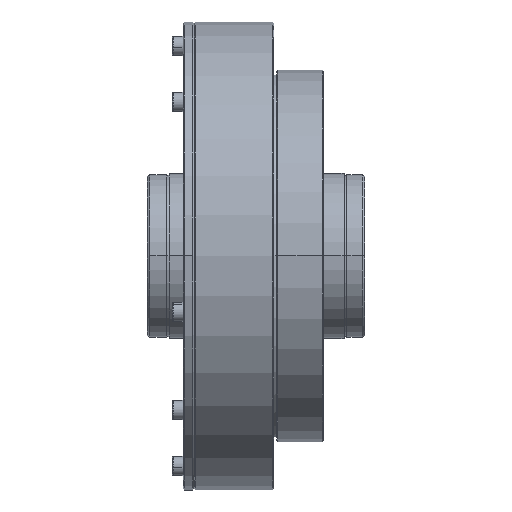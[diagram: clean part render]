
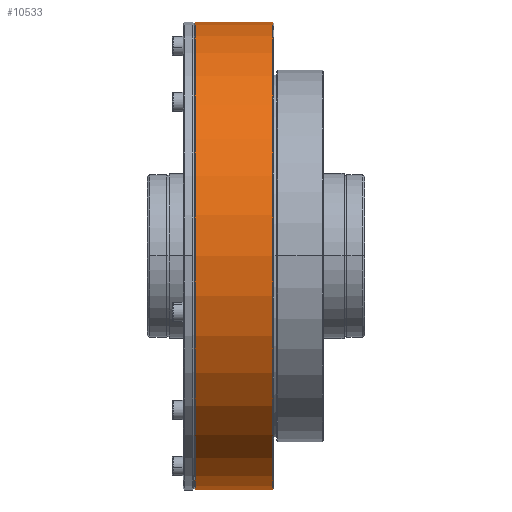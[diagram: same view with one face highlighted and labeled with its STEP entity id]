
A CAD part, top view. The second image highlights one B-rep face of the part: STEP entity #10533.
In plain terms, the highlighted cylindrical face has radius 85 mm (diameter 170 mm), a partial arc.
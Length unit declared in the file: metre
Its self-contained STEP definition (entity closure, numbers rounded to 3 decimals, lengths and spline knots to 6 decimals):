
#390 = CARTESIAN_POINT ( 'NONE',  ( 0.0175, 0.085, 0. ) ) ;
#1023 = CARTESIAN_POINT ( 'NONE',  ( 0.0175, 0., 0. ) ) ;
#1043 = DIRECTION ( 'NONE',  ( -1., 0., 0. ) ) ;
#3065 = VECTOR ( 'NONE', #25677, 1. ) ;
#3181 = EDGE_LOOP ( 'NONE', ( #29459, #11622, #6292, #28623 ) ) ;
#4499 = AXIS2_PLACEMENT_3D ( 'NONE', #29987, #1043, #22777 ) ;
#5985 = DIRECTION ( 'NONE',  ( 1., 0., 0. ) ) ;
#6292 = ORIENTED_EDGE ( 'NONE', *, *, #10625, .T. ) ;
#7155 = CARTESIAN_POINT ( 'NONE',  ( 0.068466, 0., 0. ) ) ;
#7466 = CIRCLE ( 'NONE', #14161, 0.085 ) ;
#8145 = LINE ( 'NONE', #17997, #28914 ) ;
#10069 = FACE_OUTER_BOUND ( 'NONE', #3181, .T. ) ;
#10533 = ADVANCED_FACE ( 'NONE', ( #10069 ), #26949, .T. ) ;
#10625 = EDGE_CURVE ( 'NONE', #23896, #17676, #18921, .T. ) ;
#11157 = DIRECTION ( 'NONE',  ( 0., 1., 0. ) ) ;
#11201 = CARTESIAN_POINT ( 'NONE',  ( 0.068466, -0.085, 0. ) ) ;
#11622 = ORIENTED_EDGE ( 'NONE', *, *, #13935, .T. ) ;
#13935 = EDGE_CURVE ( 'NONE', #19142, #23896, #15716, .T. ) ;
#14161 = AXIS2_PLACEMENT_3D ( 'NONE', #1023, #5985, #11157 ) ;
#14796 = CARTESIAN_POINT ( 'NONE',  ( 0.0455, 0.085, 0. ) ) ;
#15716 = LINE ( 'NONE', #11201, #3065 ) ;
#15729 = DIRECTION ( 'NONE',  ( 1., 0., 0. ) ) ;
#16701 = CARTESIAN_POINT ( 'NONE',  ( 0.0455, -0.085, 0. ) ) ;
#17676 = VERTEX_POINT ( 'NONE', #14796 ) ;
#17997 = CARTESIAN_POINT ( 'NONE',  ( 0.068466, 0.085, 0. ) ) ;
#18396 = CARTESIAN_POINT ( 'NONE',  ( 0.0175, -0.085, 0. ) ) ;
#18921 = CIRCLE ( 'NONE', #4499, 0.085 ) ;
#19142 = VERTEX_POINT ( 'NONE', #18396 ) ;
#21331 = EDGE_CURVE ( 'NONE', #30631, #19142, #7466, .T. ) ;
#22147 = DIRECTION ( 'NONE',  ( 0., 1., 0. ) ) ;
#22777 = DIRECTION ( 'NONE',  ( 0., 1., 0. ) ) ;
#23896 = VERTEX_POINT ( 'NONE', #16701 ) ;
#25018 = EDGE_CURVE ( 'NONE', #30631, #17676, #8145, .T. ) ;
#25677 = DIRECTION ( 'NONE',  ( 1., 0., 0. ) ) ;
#26949 = CYLINDRICAL_SURFACE ( 'NONE', #29652, 0.085 ) ;
#28623 = ORIENTED_EDGE ( 'NONE', *, *, #25018, .F. ) ;
#28914 = VECTOR ( 'NONE', #15729, 1. ) ;
#29016 = DIRECTION ( 'NONE',  ( 1., 0., 0. ) ) ;
#29459 = ORIENTED_EDGE ( 'NONE', *, *, #21331, .T. ) ;
#29652 = AXIS2_PLACEMENT_3D ( 'NONE', #7155, #29016, #22147 ) ;
#29987 = CARTESIAN_POINT ( 'NONE',  ( 0.0455, 0., 0. ) ) ;
#30631 = VERTEX_POINT ( 'NONE', #390 ) ;
